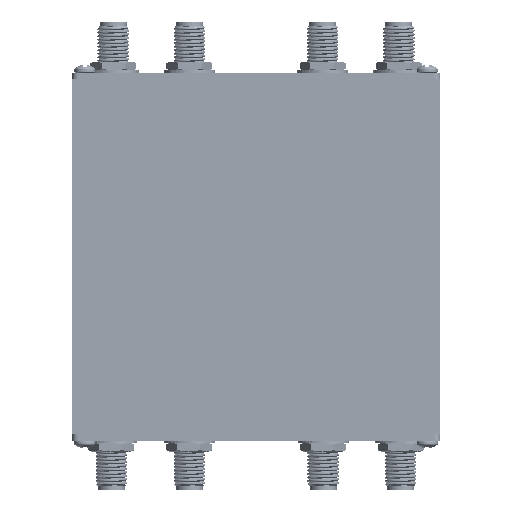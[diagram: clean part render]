
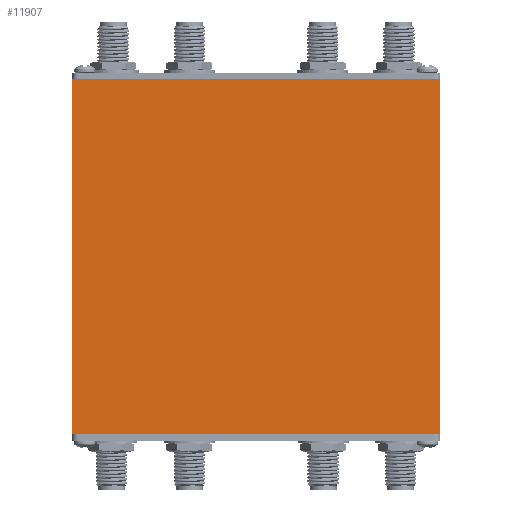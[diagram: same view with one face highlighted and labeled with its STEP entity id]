
A CAD part, front view. The second image highlights one B-rep face of the part: STEP entity #11907.
In plain terms, the highlighted planar face has unit normal (0, -1, 0).
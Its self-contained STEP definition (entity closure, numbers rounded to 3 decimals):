
#1355 = EDGE_CURVE ( 'NONE', #10458, #19624, #30251, .T. ) ;
#1654 = DIRECTION ( 'NONE',  ( 0., 0., -1. ) ) ;
#1724 = VERTEX_POINT ( 'NONE', #6271 ) ;
#2337 = CARTESIAN_POINT ( 'NONE',  ( 149.18, 56.87, 71.12 ) ) ;
#2576 = EDGE_CURVE ( 'NONE', #1724, #4219, #40979, .T. ) ;
#3899 = ORIENTED_EDGE ( 'NONE', *, *, #2576, .T. ) ;
#4219 = VERTEX_POINT ( 'NONE', #12360 ) ;
#4514 = AXIS2_PLACEMENT_3D ( 'NONE', #6652, #37360, #23688 ) ;
#5448 = DIRECTION ( 'NONE',  ( 0., 0., -1. ) ) ;
#6271 = CARTESIAN_POINT ( 'NONE',  ( 149.18, 56.87, 71.12 ) ) ;
#6652 = CARTESIAN_POINT ( 'NONE',  ( 149.18, 56.87, 71.12 ) ) ;
#7020 = EDGE_CURVE ( 'NONE', #4219, #19624, #10554, .T. ) ;
#7157 = VECTOR ( 'NONE', #37534, 1000. ) ;
#7949 = VECTOR ( 'NONE', #1654, 1000. ) ;
#10458 = VERTEX_POINT ( 'NONE', #36063 ) ;
#10554 = LINE ( 'NONE', #38306, #7949 ) ;
#11159 = LINE ( 'NONE', #25236, #36819 ) ;
#11907 = ADVANCED_FACE ( 'NONE', ( #23482 ), #30073, .T. ) ;
#12360 = CARTESIAN_POINT ( 'NONE',  ( 75.52, 56.87, 71.12 ) ) ;
#18417 = CARTESIAN_POINT ( 'NONE',  ( 75.52, 56.87, 0. ) ) ;
#19624 = VERTEX_POINT ( 'NONE', #18417 ) ;
#20012 = DIRECTION ( 'NONE',  ( -1., 0., 0. ) ) ;
#22113 = ORIENTED_EDGE ( 'NONE', *, *, #7020, .T. ) ;
#23482 = FACE_OUTER_BOUND ( 'NONE', #38838, .T. ) ;
#23688 = DIRECTION ( 'NONE',  ( 0., 0., -1. ) ) ;
#25236 = CARTESIAN_POINT ( 'NONE',  ( 149.18, 56.87, 71.12 ) ) ;
#26566 = VECTOR ( 'NONE', #20012, 1000. ) ;
#27288 = CARTESIAN_POINT ( 'NONE',  ( 149.18, 56.87, 0. ) ) ;
#30073 = PLANE ( 'NONE',  #4514 ) ;
#30251 = LINE ( 'NONE', #27288, #7157 ) ;
#30961 = ORIENTED_EDGE ( 'NONE', *, *, #1355, .F. ) ;
#35013 = EDGE_CURVE ( 'NONE', #1724, #10458, #11159, .T. ) ;
#36063 = CARTESIAN_POINT ( 'NONE',  ( 149.18, 56.87, 0. ) ) ;
#36819 = VECTOR ( 'NONE', #5448, 1000. ) ;
#37360 = DIRECTION ( 'NONE',  ( 0., -1., 0. ) ) ;
#37534 = DIRECTION ( 'NONE',  ( -1., 0., 0. ) ) ;
#38306 = CARTESIAN_POINT ( 'NONE',  ( 75.52, 56.87, 71.12 ) ) ;
#38838 = EDGE_LOOP ( 'NONE', ( #30961, #41404, #3899, #22113 ) ) ;
#40979 = LINE ( 'NONE', #2337, #26566 ) ;
#41404 = ORIENTED_EDGE ( 'NONE', *, *, #35013, .F. ) ;
